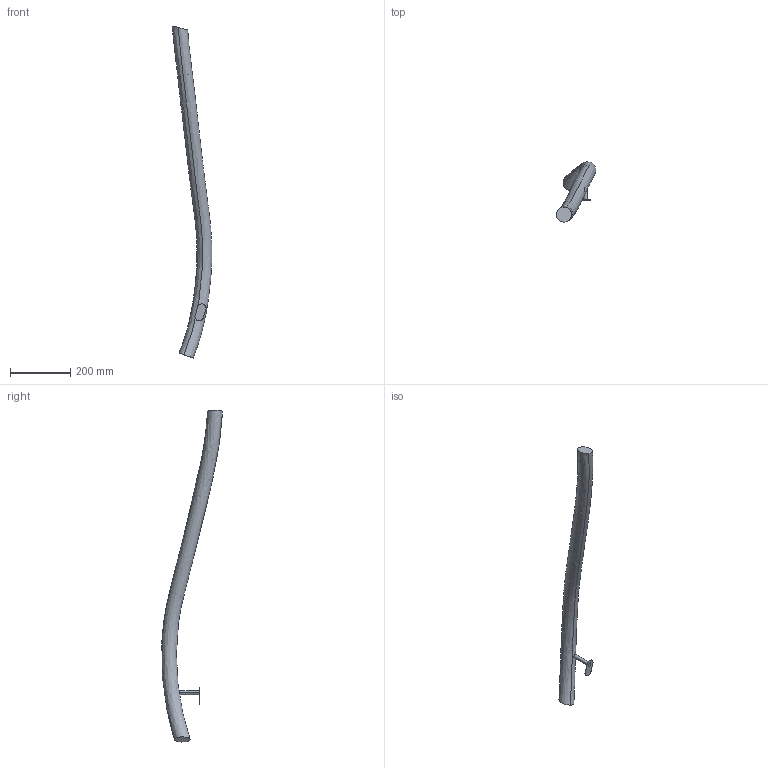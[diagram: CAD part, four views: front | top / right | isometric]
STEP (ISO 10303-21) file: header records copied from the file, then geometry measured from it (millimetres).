
FILE_DESCRIPTION (( 'STEP AP203' ), '1' );
FILE_NAME ('IRB6700-MH6_220-300_IRC5_rev00_LINK02_CABLE.STEP', '2014-08-27T11:28:32', ( 'ABB' ), ( 'ABB' ), 'SwSTEP 2.0', 'SolidWorks 2012', '' );
FILE_SCHEMA (( 'CONFIG_CONTROL_DESIGN' ));
Length unit declared in the file: millimetre
Products named in the file (1): IRB6700-MH6_220-300_IRC5_rev00_LINK02_CABLE
Bounding box: 131.05 x 200.9 x 1100.78 mm (x, y, z)
Volume: 2205185.9 mm3; surface area: 185292.6 mm2
Topology: 1 solids, 1 shells, 12 faces, 24 edges, 16 vertices
Faces by surface type: plane 6, bspline 4, cylinder 2
Entity records: 11741 total; most frequent: CARTESIAN_POINT 11443, ORIENTED_EDGE 48, DIRECTION 32, EDGE_CURVE 24, VERTEX_POINT 16, EDGE_LOOP 14, ADVANCED_FACE 12, B_SPLINE_CURVE_WITH_KNOTS 12
